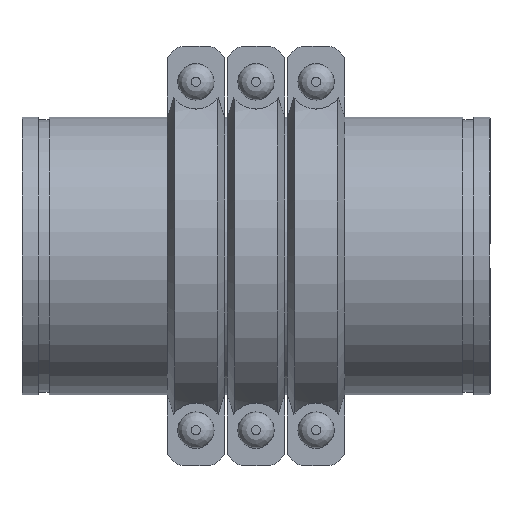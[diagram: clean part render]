
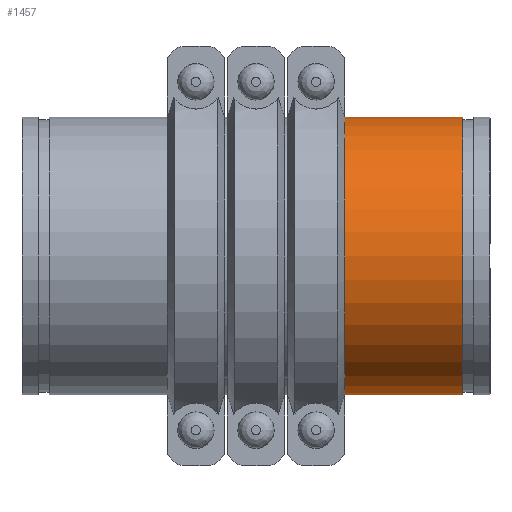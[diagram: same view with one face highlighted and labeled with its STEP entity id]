
A CAD part, front view. The second image highlights one B-rep face of the part: STEP entity #1457.
In plain terms, the highlighted cylindrical face has radius 161.925 mm (diameter 323.85 mm), a full revolution.
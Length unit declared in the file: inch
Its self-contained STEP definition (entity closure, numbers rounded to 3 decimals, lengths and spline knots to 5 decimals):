
#79=LINE('',#2321,#166);
#166=VECTOR('',#1880,6.375);
#253=CYLINDRICAL_SURFACE('',#1664,6.375);
#310=FACE_OUTER_BOUND('',#395,.T.);
#395=EDGE_LOOP('',(#956,#957,#958,#959,#960,#961));
#503=CIRCLE('',#1662,6.375);
#504=CIRCLE('',#1663,6.375);
#505=CIRCLE('',#1665,6.375);
#506=CIRCLE('',#1666,6.375);
#595=VERTEX_POINT('',#2312);
#596=VERTEX_POINT('',#2313);
#597=VERTEX_POINT('',#2317);
#598=VERTEX_POINT('',#2318);
#740=EDGE_CURVE('',#595,#596,#503,.T.);
#741=EDGE_CURVE('',#596,#595,#504,.T.);
#742=EDGE_CURVE('',#597,#598,#505,.T.);
#743=EDGE_CURVE('',#598,#597,#506,.T.);
#744=EDGE_CURVE('',#598,#596,#79,.T.);
#956=ORIENTED_EDGE('',*,*,#742,.F.);
#957=ORIENTED_EDGE('',*,*,#743,.F.);
#958=ORIENTED_EDGE('',*,*,#744,.T.);
#959=ORIENTED_EDGE('',*,*,#741,.T.);
#960=ORIENTED_EDGE('',*,*,#740,.T.);
#961=ORIENTED_EDGE('',*,*,#744,.F.);
#1457=ADVANCED_FACE('',(#310),#253,.T.);
#1662=AXIS2_PLACEMENT_3D('',#2314,#1870,#1871);
#1663=AXIS2_PLACEMENT_3D('',#2315,#1872,#1873);
#1664=AXIS2_PLACEMENT_3D('',#2316,#1874,#1875);
#1665=AXIS2_PLACEMENT_3D('',#2319,#1876,#1877);
#1666=AXIS2_PLACEMENT_3D('',#2320,#1878,#1879);
#1870=DIRECTION('center_axis',(-1.,0.,0.));
#1871=DIRECTION('ref_axis',(0.,0.,1.));
#1872=DIRECTION('center_axis',(-1.,0.,0.));
#1873=DIRECTION('ref_axis',(0.,0.,1.));
#1874=DIRECTION('center_axis',(-1.,0.,0.));
#1875=DIRECTION('ref_axis',(0.,1.,0.));
#1876=DIRECTION('center_axis',(-1.,0.,0.));
#1877=DIRECTION('ref_axis',(0.,0.,1.));
#1878=DIRECTION('center_axis',(-1.,0.,0.));
#1879=DIRECTION('ref_axis',(0.,0.,1.));
#1880=DIRECTION('',(1.,0.,0.));
#2312=CARTESIAN_POINT('',(2.735,6.375,0.));
#2313=CARTESIAN_POINT('',(2.735,-6.375,0.));
#2314=CARTESIAN_POINT('Origin',(2.735,0.,0.));
#2315=CARTESIAN_POINT('Origin',(2.735,0.,0.));
#2316=CARTESIAN_POINT('Origin',(0.,0.,
0.));
#2317=CARTESIAN_POINT('',(-2.735,6.375,0.));
#2318=CARTESIAN_POINT('',(-2.735,-6.375,0.));
#2319=CARTESIAN_POINT('Origin',(-2.735,0.,0.));
#2320=CARTESIAN_POINT('Origin',(-2.735,0.,0.));
#2321=CARTESIAN_POINT('',(0.,-6.375,0.));
